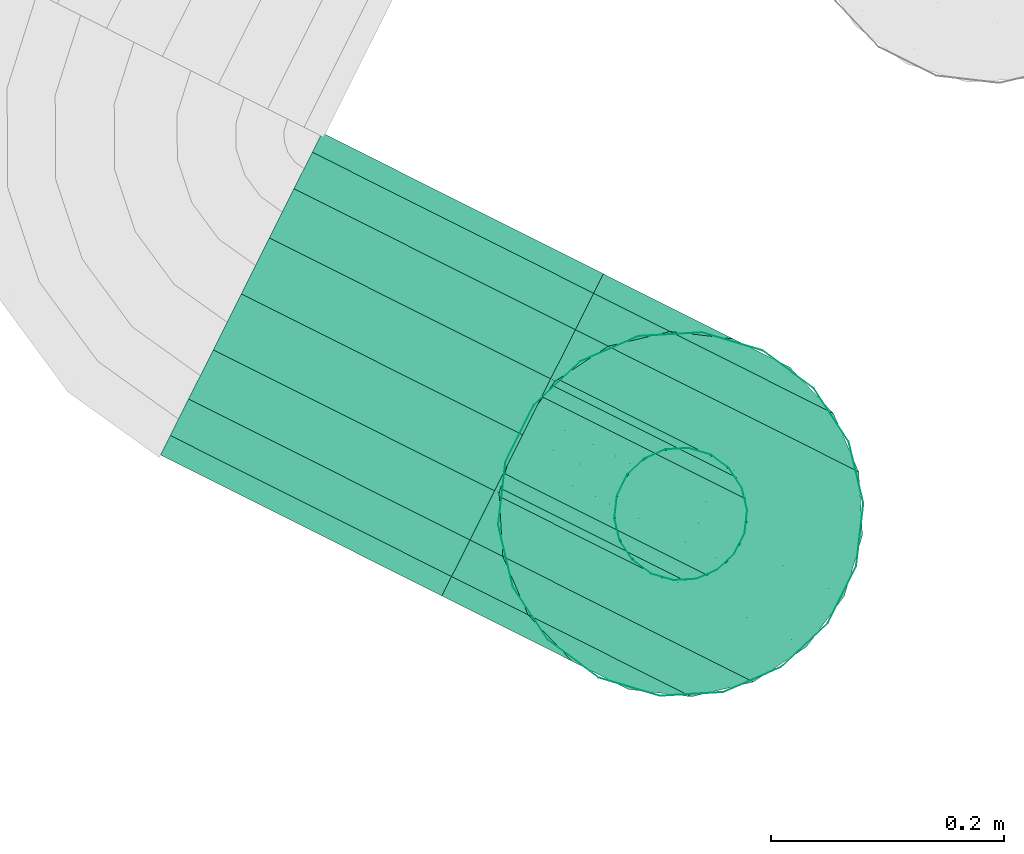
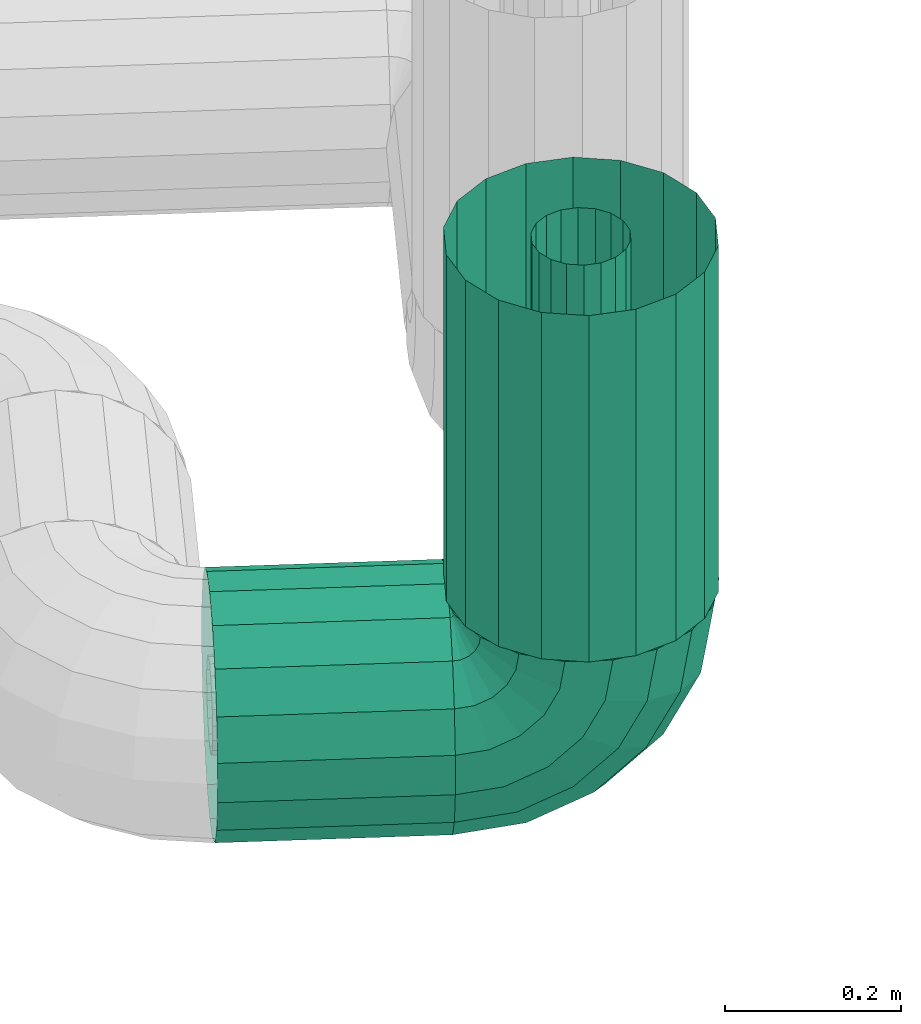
# One storey, part 34 of 206: 3 flow segments.
"""IFC2X3 building model written with IfcOpenShell, lengths in metres."""

from ifc_helpers import new_model, si_unit, derived_unit, direction, frame, origin, place, context, subcontext, project, spatial, face_set, surface_model, source, transform, mapped, material, type_object, type_shapes, element, save


model = new_model("IFC2X3")

# Units and contexts
model_context = context("Model", 3, precision=5.2338327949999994e-05, world=origin(), true_north=direction((0.0, 1.0)))
body_context = subcontext(model_context, "Body", "Model", "MODEL_VIEW")
ifc_project = project(units=[si_unit("LENGTHUNIT", "METRE"), si_unit("AREAUNIT", "SQUARE_METRE"), si_unit("VOLUMEUNIT", "CUBIC_METRE"), si_unit("MASSUNIT", "GRAM", prefix="KILO"), si_unit("PLANEANGLEUNIT", "RADIAN"), derived_unit("THERMALTRANSMITTANCEUNIT", [(si_unit("MASSUNIT", "GRAM", prefix="KILO"), 1), (si_unit("THERMODYNAMICTEMPERATUREUNIT", "KELVIN"), -1), (si_unit("TIMEUNIT", "SECOND"), -3)])], contexts=[model_context])

# Site, building, storey
site_placement = place(None, frame((0.0, 0.0, 0.0), z_axis=(0.0, 0.0, 1.0), x_axis=(0.8939966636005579, -0.4480736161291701, 0.0)))
site = spatial("IfcSite", under=ifc_project, at=site_placement, Name="Default", CompositionType="ELEMENT")
building_placement = place(site_placement, origin())
building = spatial("IfcBuilding", under=site, at=building_placement, CompositionType="ELEMENT")
storey_placement = place(building_placement, origin())
storey = spatial("IfcBuildingStorey", under=building, at=storey_placement, Name="Erdgeschoss", CompositionType="ELEMENT", Elevation=0.0)

# Flow segments
ifc_material = material(Name="IfcSurfaceStyle #9317")
distribution_element_type_1 = type_object("IfcDistributionElementType", Name="Rohrbogen 292968:Rohrbogen 292968", material=ifc_material)
shared_shape_1 = source(origin(), body_context, "Body", "SurfaceModel", [
    surface_model("IfcFaceBasedSurfaceModel", [(17.673145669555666, 6.766167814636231, 2.4051674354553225), (17.68338225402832, 6.766167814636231, 2.4697983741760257), (17.669867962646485, 6.746621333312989, 2.4062324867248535), (17.67993595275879, 6.746621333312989, 2.4697983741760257), (17.64343818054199, 6.766167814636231, 2.3468631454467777), (17.640649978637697, 6.746621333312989, 2.3488890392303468), (17.597167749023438, 6.766167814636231, 2.300592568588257), (17.595142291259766, 6.746621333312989, 2.303380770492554), (17.538863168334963, 6.766167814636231, 2.270884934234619), (17.53779811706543, 6.746621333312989, 2.274162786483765), (17.47423222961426, 6.766167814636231, 2.260648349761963), (17.47423222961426, 6.746621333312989, 2.264094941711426), (17.66043016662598, 6.729432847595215, 2.409299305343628), (17.670012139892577, 6.729432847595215, 2.4697983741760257), (17.63262139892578, 6.729432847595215, 2.354722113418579), (17.589308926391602, 6.729432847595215, 2.3114094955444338), (17.534732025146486, 6.729432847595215, 2.283601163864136), (17.47423222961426, 6.729432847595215, 2.2740188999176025), (17.64596942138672, 6.716674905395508, 2.4139977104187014), (17.65480725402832, 6.716674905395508, 2.4697983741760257), (17.620320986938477, 6.716674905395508, 2.36365906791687), (17.580372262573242, 6.716674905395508, 2.32371019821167), (17.530033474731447, 6.716674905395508, 2.2980613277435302), (17.47423222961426, 6.716674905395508, 2.289223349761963), (17.62823096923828, 6.709886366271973, 2.4197611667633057), (17.636156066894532, 6.709886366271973, 2.4697983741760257), (17.605231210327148, 6.709886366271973, 2.3746219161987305), (17.569408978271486, 6.709886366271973, 2.338799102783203), (17.524269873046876, 6.709886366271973, 2.3157994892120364), (17.47423222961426, 6.709886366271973, 2.3078743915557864), (17.60935421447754, 6.709886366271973, 2.425894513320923), (17.61630844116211, 6.709886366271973, 2.4697983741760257), (17.58917405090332, 6.709886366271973, 2.386288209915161), (17.557742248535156, 6.709886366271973, 2.354856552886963), (17.518136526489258, 6.709886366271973, 2.3346760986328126), (17.47423222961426, 6.709886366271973, 2.327722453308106), (17.59765725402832, 6.716674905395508, 2.4697983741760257), (17.59161692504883, 6.716674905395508, 2.4316579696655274), (17.57408543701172, 6.716674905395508, 2.3972510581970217), (17.546780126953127, 6.716674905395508, 2.3699454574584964), (17.512372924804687, 6.716674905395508, 2.3524142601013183), (17.47423222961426, 6.716674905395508, 2.346373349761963), (17.57715617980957, 6.729432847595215, 2.4363563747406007), (17.58245353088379, 6.729432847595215, 2.4697983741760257), (17.561785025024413, 6.729432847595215, 2.4061880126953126), (17.537843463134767, 6.729432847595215, 2.3822461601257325), (17.507674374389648, 6.729432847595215, 2.3668745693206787), (17.47423222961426, 6.729432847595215, 2.3615777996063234), (17.572528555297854, 6.746621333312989, 2.4697983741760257), (17.567718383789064, 6.746621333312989, 2.4394231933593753), (17.5537564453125, 6.746621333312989, 2.412021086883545), (17.532010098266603, 6.746621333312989, 2.3902748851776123), (17.504608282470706, 6.746621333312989, 2.376312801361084), (17.47423222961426, 6.746621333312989, 2.371501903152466), (17.56908225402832, 6.766167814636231, 2.4697983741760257), (17.564440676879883, 6.766167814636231, 2.4404882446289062), (17.550968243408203, 6.766167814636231, 2.4140469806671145), (17.529983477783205, 6.766167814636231, 2.3930630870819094), (17.503543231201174, 6.766167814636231, 2.37959065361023), (17.47423222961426, 6.766167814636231, 2.3749483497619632), (17.567718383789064, 6.785714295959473, 2.4394231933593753), (17.572528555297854, 6.785714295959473, 2.4697983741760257), (17.5537564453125, 6.785714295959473, 2.412021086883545), (17.532010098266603, 6.785714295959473, 2.3902748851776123), (17.504608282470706, 6.785714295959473, 2.376312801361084), (17.47423222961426, 6.785714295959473, 2.371501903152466), (17.58245353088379, 6.802903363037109, 2.4697983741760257), (17.57715617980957, 6.802903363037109, 2.4363563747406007), (17.561785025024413, 6.802903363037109, 2.4061880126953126), (17.537843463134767, 6.802903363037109, 2.3822461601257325), (17.507674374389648, 6.802903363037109, 2.3668745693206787), (17.47423222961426, 6.802903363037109, 2.3615777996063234), (17.59765725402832, 6.815661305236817, 2.4697983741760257), (17.59161692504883, 6.815661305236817, 2.4316579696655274), (17.57408543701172, 6.815661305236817, 2.3972510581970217), (17.546780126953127, 6.815661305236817, 2.3699454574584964), (17.512372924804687, 6.815661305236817, 2.3524142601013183), (17.47423222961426, 6.815661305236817, 2.346373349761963), (17.61630844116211, 6.822449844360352, 2.4697983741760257), (17.60935421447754, 6.822449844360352, 2.425894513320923), (17.58917405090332, 6.822449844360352, 2.386288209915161), (17.557742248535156, 6.822449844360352, 2.354856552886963), (17.518136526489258, 6.822449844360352, 2.3346760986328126), (17.47423222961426, 6.822449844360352, 2.327722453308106), (17.636156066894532, 6.822449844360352, 2.4697983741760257), (17.62823096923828, 6.822449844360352, 2.4197611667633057), (17.605231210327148, 6.822449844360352, 2.3746219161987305), (17.569408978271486, 6.822449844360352, 2.338799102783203), (17.524269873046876, 6.822449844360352, 2.3157994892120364), (17.47423222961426, 6.822449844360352, 2.3078743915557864), (17.64596942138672, 6.815661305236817, 2.4139977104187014), (17.65480725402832, 6.815661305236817, 2.4697983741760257), (17.620320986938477, 6.815661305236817, 2.36365906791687), (17.580372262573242, 6.815661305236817, 2.32371019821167), (17.530033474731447, 6.815661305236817, 2.2980613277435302), (17.47423222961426, 6.815661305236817, 2.289223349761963), (17.670012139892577, 6.802903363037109, 2.4697983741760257), (17.66043016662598, 6.802903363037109, 2.409299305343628), (17.63262139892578, 6.802903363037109, 2.354722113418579), (17.589308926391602, 6.802903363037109, 2.3114094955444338), (17.534732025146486, 6.802903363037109, 2.283601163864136), (17.47423222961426, 6.802903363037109, 2.2740188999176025), (17.67993595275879, 6.785714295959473, 2.4697983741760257), (17.669867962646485, 6.785714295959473, 2.4062324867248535), (17.640649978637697, 6.785714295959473, 2.3488890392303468), (17.595142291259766, 6.785714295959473, 2.303380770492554), (17.76825149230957, 6.766167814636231, 2.374265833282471), (17.783381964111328, 6.766167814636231, 2.4697983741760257), (17.773904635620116, 6.7124193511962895, 2.4697983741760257), (17.75923808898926, 6.7124193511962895, 2.37719443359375), (17.72434021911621, 6.766167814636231, 2.288084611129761), (17.71667324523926, 6.7124193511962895, 2.293655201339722), (17.65594671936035, 6.766167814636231, 2.21969082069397), (17.65037612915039, 6.7124193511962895, 2.2273580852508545), (17.569764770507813, 6.766167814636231, 2.175779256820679), (17.566835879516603, 6.7124193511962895, 2.1847928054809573), (17.47423222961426, 6.766167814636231, 2.1606483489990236), (17.47423222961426, 6.7124193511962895, 2.1701256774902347), (17.73328502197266, 6.665153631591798, 2.3856272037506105), (17.746616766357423, 6.665153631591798, 2.4697983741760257), (17.69459552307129, 6.665153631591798, 2.309695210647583), (17.634335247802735, 6.665153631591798, 2.24943522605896), (17.558403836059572, 6.665153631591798, 2.210745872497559), (17.47423222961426, 6.665153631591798, 2.1974145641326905), (17.70480769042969, 6.630072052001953, 2.4697983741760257), (17.693522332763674, 6.630072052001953, 2.3985467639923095), (17.660772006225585, 6.630072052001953, 2.3342698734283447), (17.609761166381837, 6.630072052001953, 2.2832593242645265), (17.54548369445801, 6.630072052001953, 2.250508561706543), (17.47423222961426, 6.630072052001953, 2.2392233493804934), (17.653521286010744, 6.6114051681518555, 2.4697983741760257), (17.644746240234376, 6.6114051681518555, 2.414395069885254), (17.619280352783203, 6.6114051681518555, 2.3644151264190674), (17.57961533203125, 6.6114051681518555, 2.324750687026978), (17.52963582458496, 6.6114051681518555, 2.29928465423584), (17.47423222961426, 6.6114051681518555, 2.2905096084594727), (17.592840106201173, 6.6114051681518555, 2.431260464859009), (17.5989432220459, 6.6114051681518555, 2.4697983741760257), (17.57512607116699, 6.6114051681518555, 2.3964949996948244), (17.547535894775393, 6.6114051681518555, 2.3689049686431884), (17.512770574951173, 6.6114051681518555, 2.351191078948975), (17.47423222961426, 6.6114051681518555, 2.345087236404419), (17.54765798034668, 6.630072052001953, 2.4697983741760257), (17.544064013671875, 6.630072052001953, 2.4471087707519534), (17.53363441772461, 6.630072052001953, 2.426640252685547), (17.517390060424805, 6.630072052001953, 2.41039633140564), (17.4969215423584, 6.630072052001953, 2.399967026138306), (17.47423222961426, 6.630072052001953, 2.3963733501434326), (17.50430132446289, 6.665153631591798, 2.460028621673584), (17.505848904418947, 6.665153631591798, 2.4697983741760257), (17.499810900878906, 6.665153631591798, 2.4512149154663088), (17.492815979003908, 6.665153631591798, 2.444220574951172), (17.48400256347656, 6.665153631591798, 2.4397295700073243), (17.47423222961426, 6.665153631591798, 2.4381822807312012), (17.47834825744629, 6.7124193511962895, 2.4684612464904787), (17.478559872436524, 6.7124193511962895, 2.4697983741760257), (17.47773317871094, 6.7124193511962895, 2.46725492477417), (17.476776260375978, 6.7124193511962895, 2.466297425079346), (17.475569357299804, 6.7124193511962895, 2.4656829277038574), (17.47423222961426, 6.7124193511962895, 2.4654710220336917), (17.47423222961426, 6.73696203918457, 2.4697983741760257), (17.47423222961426, 6.736294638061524, 2.469055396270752), (17.47423222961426, 6.7953741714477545, 2.4697983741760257), (17.47423222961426, 6.796041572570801, 2.469055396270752), (17.47834825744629, 6.819916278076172, 2.4684612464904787), (17.478559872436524, 6.819916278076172, 2.4697983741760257), (17.47773317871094, 6.819916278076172, 2.46725492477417), (17.476776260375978, 6.819916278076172, 2.466297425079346), (17.475569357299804, 6.819916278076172, 2.4656829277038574), (17.47423222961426, 6.819916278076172, 2.4654710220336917), (17.505848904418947, 6.867181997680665, 2.4697983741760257), (17.50430132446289, 6.867181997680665, 2.460028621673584), (17.499810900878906, 6.867181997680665, 2.4512149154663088), (17.492815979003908, 6.867181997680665, 2.444220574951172), (17.48400256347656, 6.867181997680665, 2.4397295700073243), (17.47423222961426, 6.867181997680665, 2.4381822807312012), (17.54765798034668, 6.902263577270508, 2.4697983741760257), (17.544064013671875, 6.902263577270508, 2.4471087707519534), (17.53363441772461, 6.902263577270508, 2.426640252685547), (17.517390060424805, 6.902263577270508, 2.41039633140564), (17.4969215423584, 6.902263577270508, 2.399967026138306), (17.47423222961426, 6.902263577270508, 2.3963733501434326), (17.5989432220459, 6.920930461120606, 2.4697983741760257), (17.592840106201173, 6.920930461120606, 2.431260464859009), (17.57512607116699, 6.920930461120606, 2.3964949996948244), (17.547535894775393, 6.920930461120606, 2.3689049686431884), (17.512770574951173, 6.920930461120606, 2.351191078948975), (17.47423222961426, 6.920930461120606, 2.345087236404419), (17.653521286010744, 6.920930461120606, 2.4697983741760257), (17.644746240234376, 6.920930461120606, 2.414395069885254), (17.619280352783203, 6.920930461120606, 2.3644151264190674), (17.57961533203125, 6.920930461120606, 2.324750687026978), (17.52963582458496, 6.920930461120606, 2.29928465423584), (17.47423222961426, 6.920930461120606, 2.2905096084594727), (17.693522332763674, 6.902263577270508, 2.3985467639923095), (17.70480769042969, 6.902263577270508, 2.4697983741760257), (17.660772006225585, 6.902263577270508, 2.3342698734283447), (17.609761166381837, 6.902263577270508, 2.2832593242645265), (17.54548369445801, 6.902263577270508, 2.250508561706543), (17.47423222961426, 6.902263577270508, 2.2392233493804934), (17.73328502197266, 6.867181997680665, 2.3856272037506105), (17.746616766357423, 6.867181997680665, 2.4697983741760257), (17.69459552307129, 6.867181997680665, 2.309695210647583), (17.634335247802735, 6.867181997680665, 2.24943522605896), (17.558403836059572, 6.867181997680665, 2.210745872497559), (17.47423222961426, 6.867181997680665, 2.1974145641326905), (17.773904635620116, 6.819916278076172, 2.4697983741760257), (17.75923808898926, 6.819916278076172, 2.37719443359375), (17.71667324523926, 6.819916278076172, 2.293655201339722), (17.65037612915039, 6.819916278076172, 2.2273580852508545), (17.566835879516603, 6.819916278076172, 2.1847928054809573), (17.47423222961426, 6.819916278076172, 2.1701256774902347), (17.53779811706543, 6.785714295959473, 2.274162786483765), (17.47423222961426, 6.785714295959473, 2.264094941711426)], [face_set([[[0, 1, 2]], [[3, 2, 1]], [[4, 0, 2]], [[2, 5, 4]], [[6, 4, 5]], [[5, 7, 6]], [[8, 6, 7]], [[7, 9, 8]], [[10, 8, 9]], [[9, 11, 10]], [[2, 3, 12]], [[13, 12, 3]], [[5, 2, 14]], [[12, 14, 2]], [[7, 5, 15]], [[14, 15, 5]], [[9, 7, 16]], [[15, 16, 7]], [[11, 9, 17]], [[16, 17, 9]], [[12, 13, 18]], [[19, 18, 13]], [[14, 12, 18]], [[18, 20, 14]], [[15, 14, 21]], [[20, 21, 14]], [[16, 15, 21]], [[21, 22, 16]], [[17, 16, 23]], [[22, 23, 16]], [[18, 19, 24]], [[25, 24, 19]], [[20, 18, 24]], [[24, 26, 20]], [[21, 20, 26]], [[26, 27, 21]], [[22, 21, 27]], [[27, 28, 22]], [[23, 22, 28]], [[28, 29, 23]], [[24, 25, 30]], [[31, 30, 25]], [[26, 24, 32]], [[30, 32, 24]], [[27, 26, 33]], [[32, 33, 26]], [[28, 27, 33]], [[33, 34, 28]], [[29, 28, 35]], [[34, 35, 28]], [[30, 31, 36]], [[36, 37, 30]], [[32, 30, 38]], [[37, 38, 30]], [[33, 32, 39]], [[38, 39, 32]], [[34, 33, 40]], [[39, 40, 33]], [[35, 34, 41]], [[40, 41, 34]], [[37, 36, 42]], [[43, 42, 36]], [[38, 37, 44]], [[42, 44, 37]], [[39, 38, 45]], [[44, 45, 38]], [[40, 39, 46]], [[45, 46, 39]], [[41, 40, 47]], [[46, 47, 40]], [[42, 43, 48]], [[48, 49, 42]], [[44, 42, 49]], [[49, 50, 44]], [[45, 44, 50]], [[50, 51, 45]], [[46, 45, 51]], [[51, 52, 46]], [[47, 46, 52]], [[52, 53, 47]], [[49, 48, 54]], [[54, 55, 49]], [[50, 49, 55]], [[55, 56, 50]], [[51, 50, 56]], [[56, 57, 51]], [[52, 51, 57]], [[57, 58, 52]], [[53, 52, 58]], [[58, 59, 53]], [[55, 54, 60]], [[61, 60, 54]], [[56, 55, 62]], [[60, 62, 55]], [[57, 56, 63]], [[62, 63, 56]], [[58, 57, 64]], [[63, 64, 57]], [[59, 58, 65]], [[64, 65, 58]], [[60, 61, 66]], [[66, 67, 60]], [[62, 60, 68]], [[67, 68, 60]], [[63, 62, 69]], [[68, 69, 62]], [[64, 63, 70]], [[69, 70, 63]], [[65, 64, 71]], [[70, 71, 64]], [[67, 66, 72]], [[72, 73, 67]], [[68, 67, 74]], [[73, 74, 67]], [[69, 68, 75]], [[74, 75, 68]], [[70, 69, 76]], [[75, 76, 69]], [[71, 70, 77]], [[76, 77, 70]], [[73, 72, 78]], [[78, 79, 73]], [[74, 73, 80]], [[79, 80, 73]], [[75, 74, 81]], [[80, 81, 74]], [[76, 75, 81]], [[81, 82, 76]], [[77, 76, 82]], [[82, 83, 77]], [[79, 78, 84]], [[84, 85, 79]], [[80, 79, 85]], [[85, 86, 80]], [[81, 80, 87]], [[86, 87, 80]], [[82, 81, 88]], [[87, 88, 81]], [[83, 82, 88]], [[88, 89, 83]], [[85, 84, 90]], [[91, 90, 84]], [[86, 85, 92]], [[90, 92, 85]], [[87, 86, 93]], [[92, 93, 86]], [[88, 87, 94]], [[93, 94, 87]], [[89, 88, 95]], [[94, 95, 88]], [[90, 91, 96]], [[96, 97, 90]], [[92, 90, 97]], [[97, 98, 92]], [[93, 92, 98]], [[98, 99, 93]], [[94, 93, 100]], [[99, 100, 93]], [[95, 94, 101]], [[100, 101, 94]], [[97, 96, 102]], [[102, 103, 97]], [[98, 97, 104]], [[103, 104, 97]], [[99, 98, 105]], [[104, 105, 98]], [[103, 102, 1]], [[1, 0, 103]], [[104, 103, 4]], [[0, 4, 103]], [[105, 104, 4]], [[4, 6, 105]], [[106, 107, 108]], [[108, 109, 106]], [[110, 106, 111]], [[109, 111, 106]], [[112, 110, 113]], [[111, 113, 110]], [[114, 112, 113]], [[113, 115, 114]], [[116, 114, 115]], [[115, 117, 116]], [[109, 108, 118]], [[119, 118, 108]], [[111, 109, 120]], [[118, 120, 109]], [[113, 111, 120]], [[120, 121, 113]], [[115, 113, 121]], [[121, 122, 115]], [[117, 115, 122]], [[122, 123, 117]], [[118, 119, 124]], [[124, 125, 118]], [[120, 118, 125]], [[125, 126, 120]], [[121, 120, 126]], [[126, 127, 121]], [[122, 121, 127]], [[127, 128, 122]], [[123, 122, 128]], [[128, 129, 123]], [[125, 124, 130]], [[130, 131, 125]], [[126, 125, 132]], [[131, 132, 125]], [[127, 126, 133]], [[132, 133, 126]], [[128, 127, 133]], [[133, 134, 128]], [[129, 128, 135]], [[134, 135, 128]], [[131, 130, 136]], [[137, 136, 130]], [[132, 131, 136]], [[136, 138, 132]], [[133, 132, 138]], [[138, 139, 133]], [[134, 133, 139]], [[139, 140, 134]], [[135, 134, 140]], [[140, 141, 135]], [[136, 137, 142]], [[142, 143, 136]], [[138, 136, 143]], [[143, 144, 138]], [[139, 138, 145]], [[144, 145, 138]], [[140, 139, 146]], [[145, 146, 139]], [[141, 140, 146]], [[146, 147, 141]], [[143, 142, 148]], [[149, 148, 142]], [[144, 143, 150]], [[148, 150, 143]], [[145, 144, 151]], [[150, 151, 144]], [[146, 145, 152]], [[151, 152, 145]], [[147, 146, 152]], [[152, 153, 147]], [[148, 149, 154]], [[155, 154, 149]], [[150, 148, 156]], [[154, 156, 148]], [[151, 150, 156]], [[156, 157, 151]], [[152, 151, 157]], [[157, 158, 152]], [[153, 152, 158]], [[158, 159, 153]], [[160, 154, 161]], [[160, 161, 155]], [[154, 155, 161]], [[156, 154, 160]], [[157, 156, 160]], [[158, 157, 160]], [[159, 158, 160]], [[162, 163, 164]], [[165, 164, 163]], [[163, 162, 165]], [[164, 166, 162]], [[162, 166, 167]], [[167, 168, 162]], [[168, 169, 162]], [[164, 165, 170]], [[170, 171, 164]], [[166, 164, 171]], [[171, 172, 166]], [[167, 166, 173]], [[172, 173, 166]], [[168, 167, 174]], [[173, 174, 167]], [[169, 168, 174]], [[174, 175, 169]], [[171, 170, 176]], [[176, 177, 171]], [[172, 171, 177]], [[177, 178, 172]], [[173, 172, 178]], [[178, 179, 173]], [[174, 173, 179]], [[179, 180, 174]], [[175, 174, 180]], [[180, 181, 175]], [[177, 176, 182]], [[182, 183, 177]], [[178, 177, 184]], [[183, 184, 177]], [[179, 178, 185]], [[184, 185, 178]], [[180, 179, 186]], [[185, 186, 179]], [[181, 180, 186]], [[186, 187, 181]], [[183, 182, 188]], [[188, 189, 183]], [[184, 183, 189]], [[189, 190, 184]], [[185, 184, 191]], [[190, 191, 184]], [[186, 185, 192]], [[191, 192, 185]], [[187, 186, 193]], [[192, 193, 186]], [[189, 188, 194]], [[195, 194, 188]], [[190, 189, 194]], [[194, 196, 190]], [[191, 190, 197]], [[196, 197, 190]], [[192, 191, 198]], [[197, 198, 191]], [[193, 192, 198]], [[198, 199, 193]], [[194, 195, 200]], [[201, 200, 195]], [[196, 194, 202]], [[200, 202, 194]], [[197, 196, 203]], [[202, 203, 196]], [[198, 197, 204]], [[203, 204, 197]], [[199, 198, 205]], [[204, 205, 198]], [[200, 201, 206]], [[206, 207, 200]], [[202, 200, 208]], [[207, 208, 200]], [[203, 202, 208]], [[208, 209, 203]], [[204, 203, 210]], [[209, 210, 203]], [[205, 204, 211]], [[210, 211, 204]], [[207, 206, 107]], [[107, 106, 207]], [[208, 207, 110]], [[106, 110, 207]], [[209, 208, 110]], [[110, 112, 209]], [[210, 209, 114]], [[112, 114, 209]], [[211, 210, 116]], [[114, 116, 210]], [[100, 99, 212]], [[105, 212, 99]], [[101, 100, 213]], [[212, 213, 100]], [[212, 105, 8]], [[6, 8, 105]], [[213, 212, 8]], [[8, 10, 213]]])]),
])
type_shapes(distribution_element_type_1, [shared_shape_1])
flow_segment_1_placement = place(storey_placement, origin())
element("IfcFlowSegment", 1, at=flow_segment_1_placement, inside=storey, type_object=distribution_element_type_1, material=ifc_material, Name="Rohrbogen", ObjectType="Rohrbogen", context=body_context, shape_type="MappedRepresentation", body=[
    mapped(shared_shape_1, transform((0.0, 0.0, 0.0), scale=1.0)),
])
distribution_element_type_2 = type_object("IfcDistributionElementType", Name="Stahlrohr nach DIN 2448 292991:Stahlrohr nach DIN 2448 292991", material=ifc_material)
shared_shape_2 = source(origin(), body_context, "Body", "SurfaceModel", [
    surface_model("IfcFaceBasedSurfaceModel", [(17.203928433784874, 6.7661679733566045, 2.260648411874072), (17.203928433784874, 6.785714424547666, 2.264094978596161), (17.474232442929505, 6.785714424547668, 2.264094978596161), (17.474232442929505, 6.7661679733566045, 2.260648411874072), (17.203928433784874, 6.802903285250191, 2.274018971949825), (17.474232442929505, 6.802903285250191, 2.2740189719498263), (17.203928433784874, 6.815661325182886, 2.2892234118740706), (17.474232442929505, 6.815661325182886, 2.2892234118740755), (17.203928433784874, 6.822449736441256, 2.3078744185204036), (17.474232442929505, 6.822449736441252, 2.3078744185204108), (17.203928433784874, 6.822449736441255, 2.3277224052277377), (17.474232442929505, 6.822449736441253, 2.327722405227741), (17.203928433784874, 6.815661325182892, 2.346373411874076), (17.474232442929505, 6.815661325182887, 2.346373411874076), (17.203928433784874, 6.802903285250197, 2.361577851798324), (17.474232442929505, 6.802903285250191, 2.361577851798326), (17.203928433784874, 6.785714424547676, 2.371501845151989), (17.474232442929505, 6.78571442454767, 2.3715018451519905), (17.203928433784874, 6.766167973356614, 2.3749484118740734), (17.474232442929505, 6.766167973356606, 2.3749484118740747), (17.203928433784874, 6.746621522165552, 2.3715018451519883), (17.474232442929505, 6.746621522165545, 2.3715018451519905), (17.203928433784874, 6.729432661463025, 2.361577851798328), (17.474232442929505, 6.7294326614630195, 2.3615778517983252), (17.203928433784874, 6.71667462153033, 2.3463734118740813), (17.474232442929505, 6.716674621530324, 2.3463734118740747), (17.203928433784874, 6.7098862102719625, 2.3277224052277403), (17.474232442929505, 6.709886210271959, 2.3277224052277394), (17.203928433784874, 6.709886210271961, 2.307874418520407), (17.474232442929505, 6.70988621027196, 2.3078744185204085), (17.203928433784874, 6.716674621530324, 2.2892234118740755), (17.474232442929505, 6.716674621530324, 2.2892234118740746), (17.203928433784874, 6.7294326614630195, 2.274018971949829), (17.474232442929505, 6.7294326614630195, 2.274018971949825), (17.203928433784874, 6.746621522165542, 2.2640949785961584), (17.474232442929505, 6.746621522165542, 2.2640949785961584), (17.203928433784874, 6.766167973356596, 2.160648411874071), (17.203928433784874, 6.819916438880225, 2.170125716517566), (17.474232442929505, 6.819916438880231, 2.1701257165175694), (17.474232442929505, 6.766167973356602, 2.1606484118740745), (17.203928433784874, 6.867182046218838, 2.197414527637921), (17.474232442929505, 6.867182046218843, 2.1974145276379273), (17.203928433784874, 6.902263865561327, 2.239223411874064), (17.474232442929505, 6.902263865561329, 2.2392234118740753), (17.203928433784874, 6.920930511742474, 2.2905096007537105), (17.474232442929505, 6.920930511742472, 2.290509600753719), (17.203928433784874, 6.92093051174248, 2.3450872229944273), (17.474232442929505, 6.920930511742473, 2.3450872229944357), (17.203928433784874, 6.90226386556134, 2.3963734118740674), (17.474232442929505, 6.9022638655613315, 2.396373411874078), (17.203928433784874, 6.8671820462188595, 2.438182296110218), (17.474232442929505, 6.867182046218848, 2.4381822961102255), (17.203928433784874, 6.81991643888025, 2.4654711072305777), (17.474232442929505, 6.819916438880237, 2.465471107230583), (17.203928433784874, 6.766167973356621, 2.474948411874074), (17.474232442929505, 6.766167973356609, 2.4749484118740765), (17.203928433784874, 6.712419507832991, 2.465471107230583), (17.474232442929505, 6.712419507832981, 2.465471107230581), (17.203928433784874, 6.66515390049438, 2.4381822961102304), (17.474232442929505, 6.665153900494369, 2.438182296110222), (17.203928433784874, 6.63007208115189, 2.3963734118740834), (17.474232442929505, 6.630072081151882, 2.3963734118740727), (17.203928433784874, 6.611405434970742, 2.345087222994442), (17.474232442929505, 6.611405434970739, 2.345087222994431), (17.203928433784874, 6.611405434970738, 2.2905096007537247), (17.474232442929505, 6.611405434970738, 2.290509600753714), (17.203928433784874, 6.6300720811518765, 2.239223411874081), (17.474232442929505, 6.63007208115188, 2.2392234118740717), (17.203928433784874, 6.665153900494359, 2.1974145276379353), (17.474232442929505, 6.665153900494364, 2.197414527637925), (17.203928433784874, 6.712419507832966, 2.1701257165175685), (17.474232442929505, 6.712419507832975, 2.170125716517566)], [face_set([[[0, 1, 2, 3]], [[1, 4, 5, 2]], [[4, 6, 7, 5]], [[6, 8, 9, 7]], [[8, 10, 11, 9]], [[10, 12, 13, 11]], [[12, 14, 15, 13]], [[14, 16, 17, 15]], [[16, 18, 19, 17]], [[18, 20, 21, 19]], [[20, 22, 23, 21]], [[22, 24, 25, 23]], [[24, 26, 27, 25]], [[26, 28, 29, 27]], [[28, 30, 31, 29]], [[30, 32, 33, 31]], [[32, 34, 35, 33]], [[34, 0, 3, 35]], [[36, 37, 38, 39]], [[37, 40, 41, 38]], [[40, 42, 43, 41]], [[42, 44, 45, 43]], [[44, 46, 47, 45]], [[46, 48, 49, 47]], [[48, 50, 51, 49]], [[50, 52, 53, 51]], [[52, 54, 55, 53]], [[54, 56, 57, 55]], [[56, 58, 59, 57]], [[58, 60, 61, 59]], [[60, 62, 63, 61]], [[62, 64, 65, 63]], [[64, 66, 67, 65]], [[66, 68, 69, 67]], [[68, 70, 71, 69]], [[70, 36, 39, 71]]])]),
])
type_shapes(distribution_element_type_2, [shared_shape_2])
flow_segment_2_placement = place(storey_placement, origin())
element("IfcFlowSegment", 2, at=flow_segment_2_placement, inside=storey, type_object=distribution_element_type_2, material=ifc_material, Name="Stahlrohr nach DIN 2448", ObjectType="Stahlrohr nach DIN 2448", context=body_context, shape_type="MappedRepresentation", body=[
    mapped(shared_shape_2, transform((0.0, 0.0, 0.0), scale=1.0)),
])
distribution_element_type_3 = type_object("IfcDistributionElementType", Name="Stahlrohr nach DIN 2448 293553:Stahlrohr nach DIN 2448 293553", material=ifc_material)
shared_shape_3 = source(origin(), body_context, "Body", "SurfaceModel", [
    surface_model("IfcFaceBasedSurfaceModel", [(17.626232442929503, 6.823317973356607, 2.469798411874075), (17.60668599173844, 6.819871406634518, 2.469798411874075), (17.60668599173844, 6.819871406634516, 2.95), (17.626232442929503, 6.823317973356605, 2.95), (17.589497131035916, 6.809947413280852, 2.469798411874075), (17.589497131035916, 6.809947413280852, 2.95), (17.57673909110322, 6.794742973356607, 2.469798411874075), (17.57673909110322, 6.794742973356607, 2.95), (17.569950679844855, 6.776091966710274, 2.469798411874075), (17.56995067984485, 6.7760919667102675, 2.95), (17.569950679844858, 6.756243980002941, 2.469798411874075), (17.56995067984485, 6.756243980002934, 2.95), (17.576739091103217, 6.737592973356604, 2.469798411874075), (17.576739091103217, 6.737592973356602, 2.95), (17.589497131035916, 6.722388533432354, 2.469798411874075), (17.589497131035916, 6.722388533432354, 2.95), (17.606685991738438, 6.71246454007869, 2.469798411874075), (17.606685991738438, 6.712464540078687, 2.95), (17.6262324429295, 6.709017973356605, 2.469798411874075), (17.626232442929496, 6.709017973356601, 2.95), (17.645778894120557, 6.712464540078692, 2.469798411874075), (17.645778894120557, 6.712464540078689, 2.95), (17.662967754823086, 6.722388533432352, 2.469798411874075), (17.662967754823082, 6.722388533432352, 2.95), (17.67572579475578, 6.737592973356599, 2.469798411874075), (17.67572579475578, 6.737592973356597, 2.95), (17.682514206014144, 6.756243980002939, 2.469798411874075), (17.682514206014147, 6.756243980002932, 2.95), (17.682514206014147, 6.776091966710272, 2.469798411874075), (17.682514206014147, 6.776091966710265, 2.95), (17.675725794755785, 6.7947429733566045, 2.469798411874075), (17.675725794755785, 6.794742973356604, 2.95), (17.66296775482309, 6.809947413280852, 2.469798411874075), (17.662967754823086, 6.809947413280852, 2.95), (17.645778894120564, 6.819871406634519, 2.469798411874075), (17.645778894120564, 6.819871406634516, 2.95), (17.626232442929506, 6.923317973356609, 2.469798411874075), (17.572483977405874, 6.913840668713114, 2.469798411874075), (17.57248397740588, 6.9138406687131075, 2.95), (17.62623244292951, 6.923317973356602, 2.95), (17.525218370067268, 6.886551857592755, 2.469798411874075), (17.525218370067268, 6.886551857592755, 2.95), (17.49013655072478, 6.844742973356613, 2.469798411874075), (17.490136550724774, 6.844742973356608, 2.95), (17.471469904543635, 6.793456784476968, 2.469798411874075), (17.471469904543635, 6.793456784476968, 2.95), (17.471469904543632, 6.738879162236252, 2.469798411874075), (17.471469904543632, 6.738879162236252, 2.95), (17.490136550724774, 6.687592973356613, 2.469798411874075), (17.490136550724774, 6.687592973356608, 2.95), (17.525218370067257, 6.645784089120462, 2.469798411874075), (17.525218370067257, 6.645784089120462, 2.95), (17.572483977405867, 6.618495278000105, 2.469798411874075), (17.572483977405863, 6.6184952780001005, 2.95), (17.626232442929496, 6.6090179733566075, 2.469798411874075), (17.626232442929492, 6.6090179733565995, 2.95), (17.679980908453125, 6.618495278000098, 2.469798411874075), (17.67998090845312, 6.6184952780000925, 2.95), (17.727246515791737, 6.645784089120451, 2.469798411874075), (17.727246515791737, 6.645784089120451, 2.95), (17.76232833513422, 6.687592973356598, 2.469798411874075), (17.76232833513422, 6.687592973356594, 2.95), (17.780994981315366, 6.7388791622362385, 2.469798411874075), (17.780994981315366, 6.7388791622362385, 2.95), (17.780994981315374, 6.7934567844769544, 2.469798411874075), (17.780994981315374, 6.7934567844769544, 2.95), (17.76232833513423, 6.844742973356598, 2.469798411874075), (17.762328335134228, 6.844742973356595, 2.95), (17.727246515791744, 6.886551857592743, 2.469798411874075), (17.727246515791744, 6.886551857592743, 2.95), (17.67998090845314, 6.913840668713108, 2.469798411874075), (17.679980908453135, 6.913840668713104, 2.95)], [face_set([[[0, 1, 2, 3]], [[1, 4, 5, 2]], [[4, 6, 7, 5]], [[6, 8, 9, 7]], [[8, 10, 11, 9]], [[10, 12, 13, 11]], [[12, 14, 15, 13]], [[14, 16, 17, 15]], [[16, 18, 19, 17]], [[18, 20, 21, 19]], [[20, 22, 23, 21]], [[22, 24, 25, 23]], [[24, 26, 27, 25]], [[26, 28, 29, 27]], [[28, 30, 31, 29]], [[30, 32, 33, 31]], [[32, 34, 35, 33]], [[34, 0, 3, 35]], [[36, 37, 38, 39]], [[37, 40, 41, 38]], [[40, 42, 43, 41]], [[42, 44, 45, 43]], [[44, 46, 47, 45]], [[46, 48, 49, 47]], [[48, 50, 51, 49]], [[50, 52, 53, 51]], [[52, 54, 55, 53]], [[54, 56, 57, 55]], [[56, 58, 59, 57]], [[58, 60, 61, 59]], [[60, 62, 63, 61]], [[62, 64, 65, 63]], [[64, 66, 67, 65]], [[66, 68, 69, 67]], [[68, 70, 71, 69]], [[70, 36, 39, 71]]])]),
])
type_shapes(distribution_element_type_3, [shared_shape_3])
flow_segment_3_placement = place(storey_placement, origin())
element("IfcFlowSegment", 3, at=flow_segment_3_placement, inside=storey, type_object=distribution_element_type_3, material=ifc_material, Name="Stahlrohr nach DIN 2448", ObjectType="Stahlrohr nach DIN 2448", context=body_context, shape_type="MappedRepresentation", body=[
    mapped(shared_shape_3, transform((0.0, 0.0, 0.0), scale=1.0)),
])

save(model, "model.ifc")
